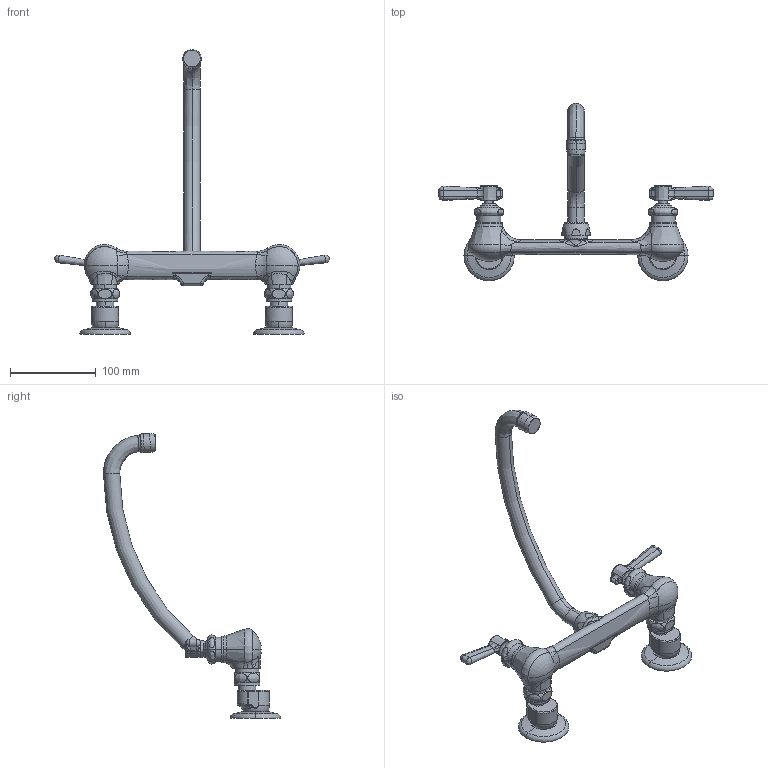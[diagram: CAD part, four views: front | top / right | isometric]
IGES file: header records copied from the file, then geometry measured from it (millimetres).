
Start section:  PTC IGES file: 540-ldl9e35abcp_sw0001.igs
Global section: file name: 540-ldl9e35abcp_sw0001.igs; native system: Pro/ENGINEER by Parametric Technology Corporation; preprocessor: 2010230; author: jrodriguez; organization: Unknown; date: 20110907.110215; units: inch
Bounding box: 321.02 x 207.11 x 333.28 mm (x, y, z)
Surface area: 99016.6 mm2 (no closed solid volume)
Topology: 0 solids, 0 shells, 500 faces, 3429 edges, 4540 vertices
Faces by surface type: bspline 331, revolution 169
